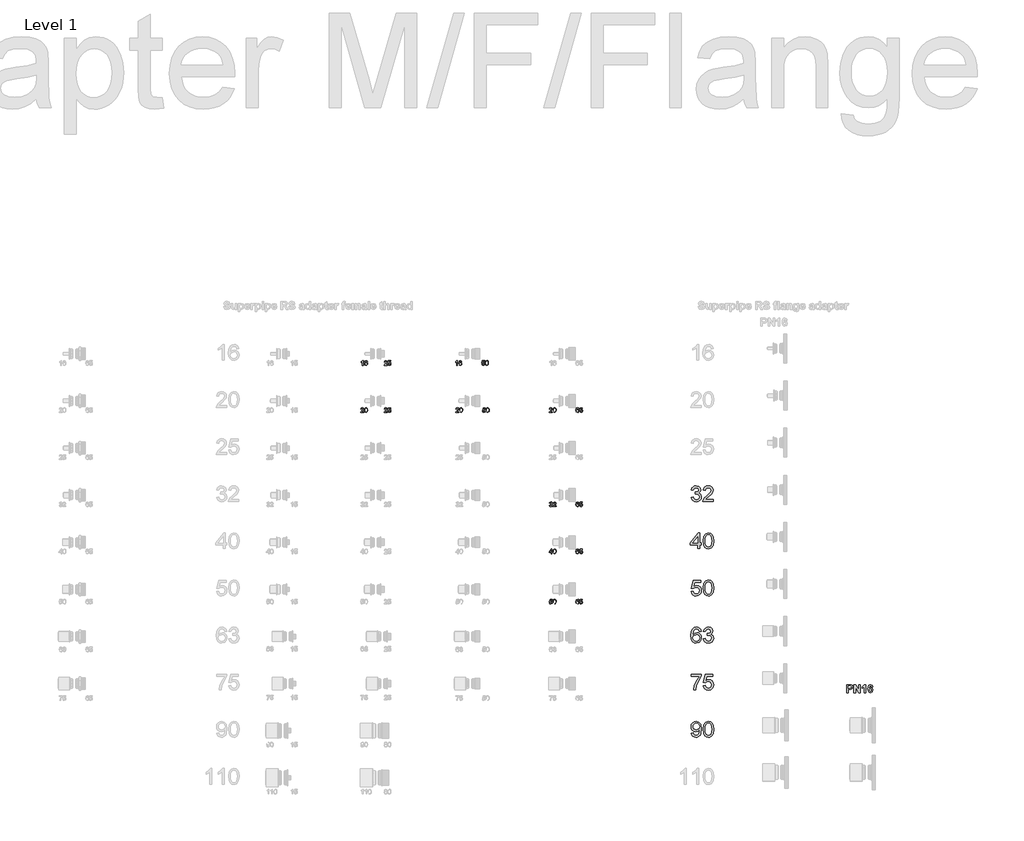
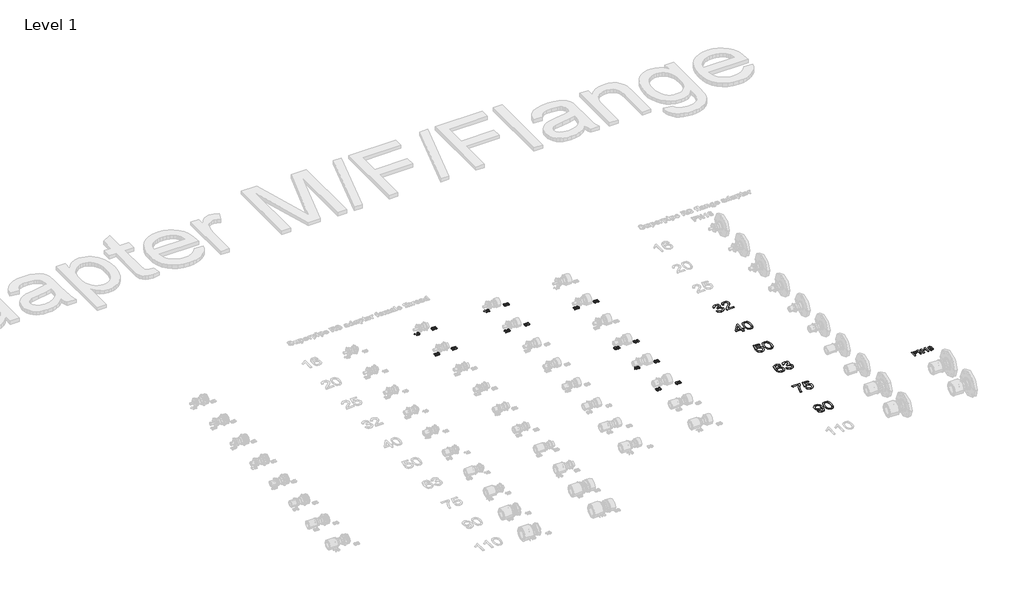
# One storey, part 48 of 58: 23 proxies.
"""IFC4 building model written with IfcOpenShell, lengths in millimetres."""

from ifc_helpers import new_model, si_unit, frame, origin, place, context, project, spatial, polyline, outline, extrude, element, save

model = new_model("IFC4")

# Units and contexts
model_context = context("Model", 3, world=origin())
ifc_project = project(units=[si_unit("LENGTHUNIT", "METRE", prefix="MILLI")], contexts=[model_context])

# Site, building, storey
site = spatial("IfcSite", under=ifc_project)
building = spatial("IfcBuilding", under=site)
storey = spatial("IfcBuildingStorey", under=building, Name="Level 1", Elevation=27.3876384)

# Proxies
placement = place(None, origin())
element("IfcBuildingElementProxy", 1, Name="100mm Arial", ObjectType="100mm Arial", at=placement, inside=storey, context=model_context, shape_type="SweptSolid", body=[
    extrude(outline(polyline([(34304.4814773, 17732.8797554), (34317.0385161, 17734.4493852), (34323.9669603, 17721.2301588), (34336.9286693, 17717.1834569), (34345.537108, 17718.5752771), (34352.1835093, 17722.7507378), (34357.8488921, 17736.5340498), (34352.2325603, 17749.5202843), (34337.9587389, 17754.6583695), (34329.1540964, 17753.2849434), (34330.552048, 17765.8419821), (34332.5631363, 17765.6948293), (34346.8124322, 17769.3000729), (34351.55811, 17773.8740723), (34353.1400025, 17780.3855837), (34348.5537403, 17790.2080329), (34336.7324655, 17794.0953193), (34324.764038, 17790.1712447), (34318.6081459, 17778.3990209), (34306.0511071, 17779.9686507), (34309.7483212, 17791.2442339), (34316.3272775, 17799.6626002), (34325.3281237, 17804.9049186), (34336.2910072, 17806.6523581), (34351.4354826, 17803.2065301), (34362.0304841, 17793.788751), (34365.6970413, 17781.1213477), (34362.2144251, 17769.5453275), (34351.9137292, 17761.2311944), (34365.5989394, 17752.6472812), (34370.4059308, 17736.3133206), (34368.0024351, 17724.0751129), (34360.791948, 17713.8479935), (34349.9087723, 17706.931812), (34336.4872109, 17704.6264181), (34324.347105, 17706.5945868), (34314.4633421, 17712.4990928), (34307.5900802, 17721.5305958), (34304.4814773, 17732.8797554)])), frame((0.0, 0.0, 27.3876384), z_axis=(0.0, 0.0, 1.0), x_axis=(1.0, 0.0, 0.0)), (0.0, 0.0, 1.0), 2.0),
    extrude(outline(polyline([(34445.7481635, 17718.7530867), (34445.7481635, 17706.196048), (34379.8237099, 17706.196048), (34381.1726106, 17714.8535376), (34388.8000306, 17728.1831285), (34404.5208545, 17742.7389928), (34426.2013668, 17763.6592156), (34431.6214948, 17777.8839861), (34426.5079351, 17789.3986925), (34413.1538187, 17794.0953193), (34399.2356165, 17789.5090571), (34393.9503785, 17776.829391), (34381.3933398, 17778.3990209), (34384.4375633, 17790.5452581), (34391.0195853, 17799.4173455), (34400.7960493, 17804.843605), (34413.4235988, 17806.6523581), (34426.1431188, 17804.6412699), (34435.9011887, 17798.6080052), (34442.1091974, 17789.5948963), (34444.1785336, 17778.6442756), (34441.9467162, 17766.7371616), (34434.5277626, 17754.4253775), (34416.538333, 17737.2207629), (34402.0928334, 17725.1419707), (34396.4274506, 17718.7530867), (34445.7481635, 17718.7530867)])), frame((0.0, 0.0, 27.3876384), z_axis=(0.0, 0.0, 1.0), x_axis=(1.0, 0.0, 0.0)), (0.0, 0.0, 1.0), 2.0),
])
element("IfcBuildingElementProxy", 2, Name="100mm Arial", ObjectType="100mm Arial", at=placement, inside=storey, context=model_context, shape_type="SweptSolid", body=[
    extrude(outline(polyline([(34345.2918533, 17406.196048), (34345.2918533, 17429.7404957), (34299.7725878, 17429.7404957), (34299.7725878, 17442.2975344), (34348.431113, 17505.0827283), (34357.8488921, 17505.0827283), (34357.8488921, 17442.2975344), (34370.4059308, 17442.2975344), (34370.4059308, 17429.7404957), (34357.8488921, 17429.7404957), (34357.8488921, 17406.196048), (34345.2918533, 17406.196048)]), holes=[polyline([(34345.2918533, 17442.2975344), (34345.2918533, 17481.0968222), (34315.2236316, 17442.2975344), (34345.2918533, 17442.2975344)])]), frame((0.0, 0.0, 27.3876384), z_axis=(0.0, 0.0, 1.0), x_axis=(1.0, 0.0, 0.0)), (0.0, 0.0, 1.0), 2.0),
    extrude(outline(polyline([(34381.3933398, 17455.6148627), (34385.0844224, 17484.5181247), (34396.0473059, 17501.1831791), (34414.3555665, 17506.6523581), (34429.0217954, 17503.4149966), (34439.150813, 17494.0830566), (34445.0369249, 17479.220624), (34447.3177933, 17455.6148627), (34443.6634988, 17426.8342279), (34432.7374036, 17410.1323853), (34424.5060439, 17406.0029099), (34414.3555665, 17404.6264181), (34401.3080184, 17407.0176511), (34391.39973, 17414.19135), (34383.8949373, 17431.1813668), (34381.3933398, 17455.6148627)]), holes=[polyline([(34393.9503785, 17455.6393881), (34395.4219065, 17435.8871907), (34399.8364905, 17424.4552577), (34406.4093154, 17419.0014071), (34414.3555665, 17417.1834569), (34422.3018176, 17419.0075385), (34428.8746426, 17424.4797831), (34433.2892265, 17435.9178475), (34434.7607545, 17455.6393881), (34433.3382775, 17474.9470615), (34429.0708463, 17486.4678993), (34422.5102841, 17492.1884643), (34414.2084137, 17494.0953193), (34406.3480018, 17492.4153249), (34400.0326942, 17487.3753416), (34395.4709574, 17475.1371339), (34393.9503785, 17455.6393881)])]), frame((0.0, 0.0, 27.3876384), z_axis=(0.0, 0.0, 1.0), x_axis=(1.0, 0.0, 0.0)), (0.0, 0.0, 1.0), 2.0),
])
element("IfcBuildingElementProxy", 3, Name="100mm Arial", ObjectType="100mm Arial", at=placement, inside=storey, context=model_context, shape_type="SweptSolid", body=[
    extrude(outline(polyline([(34304.4814773, 17132.8797554), (34317.0385161, 17134.4493852), (34323.3660864, 17121.5122017), (34336.4872109, 17117.1834569), (34345.488057, 17118.6887074), (34352.2325603, 17123.2044589), (34356.4448091, 17130.2095452), (34357.8488921, 17139.1828002), (34352.5881795, 17154.0942837), (34345.981632, 17158.196168), (34336.6834146, 17159.5634627), (34325.6592175, 17157.3806962), (34318.6081459, 17151.7153135), (34306.0511071, 17153.2849434), (34317.0385161, 17205.0827283), (34365.6970413, 17205.0827283), (34365.6970413, 17192.5256895), (34327.1920591, 17192.5256895), (34321.820982, 17164.8609635), (34330.7911713, 17170.305617), (34340.1905563, 17172.1205015), (34351.9229263, 17169.87029), (34361.6626021, 17163.1196554), (34368.2200987, 17152.8312222), (34370.4059308, 17139.9676151), (34368.4377622, 17127.4105764), (34362.5332561, 17116.6684221), (34351.2270162, 17107.6369191), (34336.43816, 17104.6264181), (34324.1049161, 17106.5608643), (34314.2794011, 17112.3642028), (34307.5440949, 17121.3619832), (34304.4814773, 17132.8797554)])), frame((0.0, 0.0, 27.3876384), z_axis=(0.0, 0.0, 1.0), x_axis=(1.0, 0.0, 0.0)), (0.0, 0.0, 1.0), 2.0),
    extrude(outline(polyline([(34381.3933398, 17155.6148627), (34385.0844224, 17184.5181247), (34396.0473059, 17201.1831791), (34414.3555665, 17206.6523581), (34429.0217954, 17203.4149966), (34439.150813, 17194.0830566), (34445.0369249, 17179.220624), (34447.3177933, 17155.6148627), (34443.6634988, 17126.8342279), (34432.7374036, 17110.1323853), (34424.5060439, 17106.0029099), (34414.3555665, 17104.6264181), (34401.3080184, 17107.0176511), (34391.39973, 17114.19135), (34383.8949373, 17131.1813668), (34381.3933398, 17155.6148627)]), holes=[polyline([(34393.9503785, 17155.6393881), (34395.4219065, 17135.8871907), (34399.8364905, 17124.4552577), (34406.4093154, 17119.0014071), (34414.3555665, 17117.1834569), (34422.3018176, 17119.0075385), (34428.8746426, 17124.4797831), (34433.2892265, 17135.9178475), (34434.7607545, 17155.6393881), (34433.3382775, 17174.9470615), (34429.0708463, 17186.4678993), (34422.5102841, 17192.1884643), (34414.2084137, 17194.0953193), (34406.3480018, 17192.4153249), (34400.0326942, 17187.3753416), (34395.4709574, 17175.1371339), (34393.9503785, 17155.6393881)])]), frame((0.0, 0.0, 27.3876384), z_axis=(0.0, 0.0, 1.0), x_axis=(1.0, 0.0, 0.0)), (0.0, 0.0, 1.0), 2.0),
])
element("IfcBuildingElementProxy", 4, Name="100mm Arial", ObjectType="100mm Arial", at=placement, inside=storey, context=model_context, shape_type="SweptSolid", body=[
    extrude(outline(polyline([(34368.836301, 16879.9686507), (34356.2792622, 16878.3990209), (34351.5213218, 16888.871395), (34338.9397575, 16894.0953193), (34327.6089921, 16891.0541615), (34319.0373416, 16879.6375569), (34315.4688862, 16857.2580689), (34326.5421343, 16867.2767219), (34340.2641327, 16870.5508717), (34351.8646783, 16868.3129229), (34361.6012884, 16861.5990764), (34368.2047702, 16851.3413001), (34370.4059308, 16838.4715617), (34366.261127, 16821.1443197), (34354.8567852, 16808.8815865), (34338.4001973, 16804.6264181), (34324.153967, 16807.4468468), (34312.8078731, 16815.9081326), (34305.3858539, 16830.8441416), (34302.9118475, 16853.0887396), (34305.6586997, 16878.0985839), (34313.8992564, 16895.1989653), (34325.1503141, 16903.7890099), (34339.7245724, 16906.6523581), (34350.7426382, 16904.8803932), (34359.5656747, 16899.5644983), (34365.7460922, 16891.1216066), (34368.836301, 16879.9686507)]), holes=[polyline([(34315.4688862, 16838.6677654), (34318.375154, 16827.7907211), (34326.1006759, 16819.8935209), (34337.4191786, 16817.1834569), (34345.7057205, 16818.5875398), (34352.2202975, 16822.7997887), (34356.4417434, 16829.4216646), (34357.8488921, 16838.0546288), (34356.4601375, 16846.3411707), (34352.2938739, 16852.659544), (34345.6689323, 16856.6602607), (34336.9041438, 16857.9938329), (34321.7106174, 16852.659544), (34317.029319, 16846.4944549), (34315.4688862, 16838.6677654)])]), frame((0.0, 0.0, 27.3876384), z_axis=(0.0, 0.0, 1.0), x_axis=(1.0, 0.0, 0.0)), (0.0, 0.0, 1.0), 2.0),
    extrude(outline(polyline([(34381.3933398, 16832.8797554), (34393.9503785, 16834.4493852), (34400.8788228, 16821.2301588), (34413.8405317, 16817.1834569), (34422.4489704, 16818.5752771), (34429.0953718, 16822.7507378), (34434.7607545, 16836.5340498), (34429.1444227, 16849.5202843), (34414.8706013, 16854.6583695), (34406.0659589, 16853.2849434), (34407.4639105, 16865.8419821), (34409.4749987, 16865.6948293), (34423.7242947, 16869.3000729), (34428.4699724, 16873.8740723), (34430.051865, 16880.3855837), (34425.4656028, 16890.2080329), (34413.644328, 16894.0953193), (34401.6759004, 16890.1712447), (34395.5200084, 16878.3990209), (34382.9629696, 16879.9686507), (34386.6601837, 16891.2442339), (34393.23914, 16899.6626002), (34402.2399862, 16904.9049186), (34413.2028696, 16906.6523581), (34428.3473451, 16903.2065301), (34438.9423465, 16893.788751), (34442.6089038, 16881.1213477), (34439.1262875, 16869.5453275), (34428.8255917, 16861.2311944), (34442.5108019, 16852.6472812), (34447.3177933, 16836.3133206), (34444.9142976, 16824.0751129), (34437.7038105, 16813.8479935), (34426.8206348, 16806.931812), (34413.3990733, 16804.6264181), (34401.2589675, 16806.5945868), (34391.3752046, 16812.4990928), (34384.5019426, 16821.5305958), (34381.3933398, 16832.8797554)])), frame((0.0, 0.0, 27.3876384), z_axis=(0.0, 0.0, 1.0), x_axis=(1.0, 0.0, 0.0)), (0.0, 0.0, 1.0), 2.0),
])
element("IfcBuildingElementProxy", 5, Name="100mm Arial", ObjectType="100mm Arial", at=placement, inside=storey, context=model_context, shape_type="SweptSolid", body=[
    extrude(outline(polyline([(34304.4814773, 16592.5256895), (34304.4814773, 16605.0827283), (34370.4059308, 16605.0827283), (34370.4059308, 16594.9291852), (34351.7052628, 16567.914384), (34337.3946531, 16533.492892), (34332.7348145, 16506.196048), (34320.1777758, 16506.196048), (34325.1687082, 16534.5229616), (34338.8661811, 16566.5409579), (34357.8488921, 16592.5256895), (34304.4814773, 16592.5256895)])), frame((0.0, 0.0, 27.3876384), z_axis=(0.0, 0.0, 1.0), x_axis=(1.0, 0.0, 0.0)), (0.0, 0.0, 1.0), 2.0),
    extrude(outline(polyline([(34381.3933398, 16532.8797554), (34393.9503785, 16534.4493852), (34400.2779488, 16521.5122017), (34413.3990733, 16517.1834569), (34422.3999195, 16518.6887074), (34429.1444227, 16523.2044589), (34433.3566716, 16530.2095452), (34434.7607545, 16539.1828002), (34429.500042, 16554.0942837), (34422.8934945, 16558.196168), (34413.5952771, 16559.5634627), (34402.57108, 16557.3806962), (34395.5200084, 16551.7153135), (34382.9629696, 16553.2849434), (34393.9503785, 16605.0827283), (34442.6089038, 16605.0827283), (34442.6089038, 16592.5256895), (34404.1039216, 16592.5256895), (34398.7328445, 16564.8609635), (34407.7030338, 16570.305617), (34417.1024188, 16572.1205015), (34428.8347887, 16569.87029), (34438.5744645, 16563.1196554), (34445.1319611, 16552.8312222), (34447.3177933, 16539.9676151), (34445.3496246, 16527.4105764), (34439.4451186, 16516.6684221), (34428.1388786, 16507.6369191), (34413.3500224, 16504.6264181), (34401.0167785, 16506.5608643), (34391.1912636, 16512.3642028), (34384.4559574, 16521.3619832), (34381.3933398, 16532.8797554)])), frame((0.0, 0.0, 27.3876384), z_axis=(0.0, 0.0, 1.0), x_axis=(1.0, 0.0, 0.0)), (0.0, 0.0, 1.0), 2.0),
])
element("IfcBuildingElementProxy", 6, Name="100mm Arial", ObjectType="100mm Arial", at=placement, inside=storey, context=model_context, shape_type="SweptSolid", body=[
    extrude(outline(polyline([(34306.0511071, 16231.3101255), (34318.6081459, 16232.8797554), (34324.2490032, 16220.899065), (34334.9421065, 16217.1834569), (34345.1079123, 16219.5746899), (34351.9995683, 16225.9635738), (34356.107584, 16236.8774064), (34357.9224685, 16251.4455334), (34357.8488921, 16253.89808), (34347.8057136, 16244.3821991), (34334.0346642, 16240.7279046), (34322.5843371, 16242.959722), (34313.0531278, 16249.6551743), (34306.6243899, 16259.9987898), (34304.4814773, 16273.1750966), (34306.7286232, 16286.7867304), (34313.4700607, 16297.4553082), (34323.5960126, 16304.3530956), (34335.9967016, 16306.6523581), (34353.8880293, 16301.4039083), (34366.1998134, 16286.4433738), (34370.4059308, 16258.3371894), (34366.2120761, 16227.839772), (34360.9973488, 16217.8487102), (34353.7408765, 16210.561581), (34344.7553587, 16206.1102088), (34334.3534953, 16204.6264181), (34323.6174724, 16206.3769233), (34315.0519533, 16211.6284388), (34309.0616081, 16220.0498708), (34306.0511071, 16231.3101255)]), holes=[polyline([(34357.8488921, 16273.4694022), (34356.4938601, 16281.979739), (34352.428764, 16288.5280385), (34346.1195878, 16292.7034991), (34338.0323153, 16294.0953193), (34329.6446058, 16292.5962002), (34322.924628, 16288.0988428), (34318.5100441, 16281.2163838), (34317.0385161, 16272.5619599), (34318.4303363, 16264.8027155), (34322.6057969, 16258.6437577), (34329.1602278, 16254.624647), (34337.6889587, 16253.2849434), (34352.1712466, 16258.6437577), (34356.4294807, 16265.029576), (34357.8488921, 16273.4694022)])]), frame((0.0, 0.0, 27.3876384), z_axis=(0.0, 0.0, 1.0), x_axis=(1.0, 0.0, 0.0)), (0.0, 0.0, 1.0), 2.0),
    extrude(outline(polyline([(34381.3933398, 16255.6148627), (34385.0844224, 16284.5181247), (34396.0473059, 16301.1831791), (34414.3555665, 16306.6523581), (34429.0217954, 16303.4149966), (34439.150813, 16294.0830566), (34445.0369249, 16279.220624), (34447.3177933, 16255.6148627), (34443.6634988, 16226.8342279), (34432.7374036, 16210.1323853), (34424.5060439, 16206.0029099), (34414.3555665, 16204.6264181), (34401.3080184, 16207.0176511), (34391.39973, 16214.19135), (34383.8949373, 16231.1813668), (34381.3933398, 16255.6148627)]), holes=[polyline([(34393.9503785, 16255.6393881), (34395.4219065, 16235.8871907), (34399.8364905, 16224.4552577), (34406.4093154, 16219.0014071), (34414.3555665, 16217.1834569), (34422.3018176, 16219.0075385), (34428.8746426, 16224.4797831), (34433.2892265, 16235.9178475), (34434.7607545, 16255.6393881), (34433.3382775, 16274.9470615), (34429.0708463, 16286.4678993), (34422.5102841, 16292.1884643), (34414.2084137, 16294.0953193), (34406.3480018, 16292.4153249), (34400.0326942, 16287.3753416), (34395.4709574, 16275.1371339), (34393.9503785, 16255.6393881)])]), frame((0.0, 0.0, 27.3876384), z_axis=(0.0, 0.0, 1.0), x_axis=(1.0, 0.0, 0.0)), (0.0, 0.0, 1.0), 2.0),
])
element("IfcBuildingElementProxy", 7, Name="30mm Arial", ObjectType="30mm Arial", at=placement, inside=storey, context=model_context, shape_type="SweptSolid", body=[
    extrude(outline(polyline([(32216.6620986, 18573.5788539), (32212.894987, 18573.5788539), (32212.894987, 18597.0644405), (32209.3265317, 18594.5223759), (32205.3607637, 18592.620426), (32205.3607637, 18596.1815237), (32210.8826725, 18599.7058332), (32214.2340775, 18603.715747), (32216.6620986, 18603.715747), (32216.6620986, 18573.5788539)])), frame((0.0, 0.0, 27.3876384), z_axis=(0.0, 0.0, 1.0), x_axis=(1.0, 0.0, 0.0)), (0.0, 0.0, 1.0), 2.0),
    extrude(outline(polyline([(32244.9154359, 18595.7106348), (32241.1483242, 18595.2397458), (32239.7209421, 18598.381458), (32235.9464728, 18599.9486353), (32232.5472432, 18599.036288), (32229.975748, 18595.6113066), (32228.9052114, 18588.8974602), (32232.2271859, 18591.9030561), (32236.3437854, 18592.885301), (32242.7449321, 18590.1997625), (32245.3863248, 18583.261508), (32244.1428837, 18578.0633355), (32240.7215811, 18574.3845155), (32235.7846047, 18573.107965), (32228.1069075, 18576.4924793), (32225.1380998, 18587.6466614), (32228.4343225, 18600.2797291), (32236.1819173, 18603.715747), (32242.134248, 18601.589389), (32244.9154359, 18595.7106348)]), holes=[polyline([(32228.9052114, 18583.3203692), (32229.7770918, 18580.0572559), (32232.0947483, 18577.6880958), (32235.4902992, 18576.8750766), (32239.9306348, 18578.5599761), (32241.6192132, 18583.1364282), (32239.9527078, 18587.5179027), (32235.3357887, 18589.1181894), (32230.7777308, 18587.5179027), (32228.9052114, 18583.3203692)])]), frame((0.0, 0.0, 27.3876384), z_axis=(0.0, 0.0, 1.0), x_axis=(1.0, 0.0, 0.0)), (0.0, 0.0, 1.0), 2.0),
])
element("IfcBuildingElementProxy", 8, Name="30mm Arial", ObjectType="30mm Arial", at=placement, inside=storey, context=model_context, shape_type="SweptSolid", body=[
    extrude(outline(polyline([(32370.5918771, 18577.3459656), (32370.5918771, 18573.5788539), (32350.8145411, 18573.5788539), (32351.2192113, 18576.1761008), (32353.5074373, 18580.1749781), (32358.2236845, 18584.5417374), (32364.7278381, 18590.8178042), (32366.3538765, 18595.0852354), (32364.8198086, 18598.5396473), (32360.8135737, 18599.9486353), (32356.6381131, 18598.5727567), (32355.0525417, 18594.7688569), (32351.28543, 18595.2397458), (32354.1733037, 18601.5452432), (32360.8945077, 18603.715747), (32367.6377847, 18601.3024411), (32370.1209882, 18595.3133222), (32369.4514429, 18591.741188), (32367.2257569, 18588.0476528), (32361.828928, 18582.8862684), (32357.4952781, 18579.2626308), (32355.7956633, 18577.3459656), (32370.5918771, 18577.3459656)])), frame((0.0, 0.0, 27.3876384), z_axis=(0.0, 0.0, 1.0), x_axis=(1.0, 0.0, 0.0)), (0.0, 0.0, 1.0), 2.0),
    extrude(outline(polyline([(32374.3589888, 18581.5839661), (32378.1261004, 18582.0548551), (32380.0243715, 18578.1737001), (32383.9607088, 18576.8750766), (32388.6843137, 18578.6813772), (32390.3692132, 18583.4748796), (32388.7909994, 18587.9483247), (32384.01957, 18589.5890784), (32380.7123108, 18588.9342484), (32378.5969893, 18587.2346336), (32374.8298777, 18587.7055225), (32378.1261004, 18603.244858), (32392.723658, 18603.244858), (32392.723658, 18599.4777464), (32381.1721633, 18599.4777464), (32379.5608402, 18591.1783286), (32385.0717125, 18593.35619), (32391.5133262, 18590.6559361), (32394.1363248, 18583.7103241), (32391.7745224, 18576.7205662), (32383.9459936, 18573.107965), (32377.2983659, 18575.4293004), (32374.3589888, 18581.5839661)])), frame((0.0, 0.0, 27.3876384), z_axis=(0.0, 0.0, 1.0), x_axis=(1.0, 0.0, 0.0)), (0.0, 0.0, 1.0), 2.0),
])
element("IfcBuildingElementProxy", 9, Name="30mm Arial", ObjectType="30mm Arial", at=placement, inside=storey, context=model_context, shape_type="SweptSolid", body=[
    extrude(outline(polyline([(32816.6620986, 18573.5788539), (32812.894987, 18573.5788539), (32812.894987, 18597.0644405), (32809.3265317, 18594.5223759), (32805.3607637, 18592.620426), (32805.3607637, 18596.1815237), (32810.8826725, 18599.7058332), (32814.2340775, 18603.715747), (32816.6620986, 18603.715747), (32816.6620986, 18573.5788539)])), frame((0.0, 0.0, 27.3876384), z_axis=(0.0, 0.0, 1.0), x_axis=(1.0, 0.0, 0.0)), (0.0, 0.0, 1.0), 2.0),
    extrude(outline(polyline([(32844.9154359, 18595.7106348), (32841.1483242, 18595.2397458), (32839.7209421, 18598.381458), (32835.9464728, 18599.9486353), (32832.5472432, 18599.036288), (32829.975748, 18595.6113066), (32828.9052114, 18588.8974602), (32832.2271859, 18591.9030561), (32836.3437854, 18592.885301), (32842.7449321, 18590.1997625), (32845.3863248, 18583.261508), (32844.1428837, 18578.0633355), (32840.7215811, 18574.3845155), (32835.7846047, 18573.107965), (32828.1069075, 18576.4924793), (32825.1380998, 18587.6466614), (32828.4343225, 18600.2797291), (32836.1819173, 18603.715747), (32842.134248, 18601.589389), (32844.9154359, 18595.7106348)]), holes=[polyline([(32828.9052114, 18583.3203692), (32829.7770918, 18580.0572559), (32832.0947483, 18577.6880958), (32835.4902992, 18576.8750766), (32839.9306348, 18578.5599761), (32841.6192132, 18583.1364282), (32839.9527078, 18587.5179027), (32835.3357887, 18589.1181894), (32830.7777308, 18587.5179027), (32828.9052114, 18583.3203692)])]), frame((0.0, 0.0, 27.3876384), z_axis=(0.0, 0.0, 1.0), x_axis=(1.0, 0.0, 0.0)), (0.0, 0.0, 1.0), 2.0),
])
element("IfcBuildingElementProxy", 10, Name="30mm Arial", ObjectType="30mm Arial", at=placement, inside=storey, context=model_context, shape_type="SweptSolid", body=[
    extrude(outline(polyline([(32971.28543, 18581.5839661), (32975.0525417, 18582.0548551), (32976.9508128, 18578.1737001), (32980.8871501, 18576.8750766), (32985.6107549, 18578.6813772), (32987.2956545, 18583.4748796), (32985.7174407, 18587.9483247), (32980.9460112, 18589.5890784), (32977.6387521, 18588.9342484), (32975.5234306, 18587.2346336), (32971.756319, 18587.7055225), (32975.0525417, 18603.244858), (32989.6500992, 18603.244858), (32989.6500992, 18599.4777464), (32978.0986046, 18599.4777464), (32976.4872814, 18591.1783286), (32981.9981537, 18593.35619), (32988.4397675, 18590.6559361), (32991.0627661, 18583.7103241), (32988.7009637, 18576.7205662), (32980.8724348, 18573.107965), (32974.2248072, 18575.4293004), (32971.28543, 18581.5839661)])), frame((0.0, 0.0, 27.3876384), z_axis=(0.0, 0.0, 1.0), x_axis=(1.0, 0.0, 0.0)), (0.0, 0.0, 1.0), 2.0),
    extrude(outline(polyline([(32994.3589888, 18588.4044983), (32995.4663136, 18597.075477), (32998.7551786, 18602.0749933), (33004.2476568, 18603.715747), (33008.6475255, 18602.7445385), (33011.6862307, 18599.9449565), (33013.4520643, 18595.4862267), (33014.1363248, 18588.4044983), (33013.0400365, 18579.7703079), (33009.7622079, 18574.7597551), (33004.2476568, 18573.107965), (32997.3609058, 18575.9774445), (32994.3589888, 18588.4044983)]), holes=[polyline([(32998.1261004, 18588.411856), (32999.891934, 18579.0566168), (33004.2476568, 18576.8750766), (33008.6033796, 18579.0639745), (33010.3692132, 18588.411856), (33008.6622407, 18597.6604093), (33004.203511, 18599.9486353), (32999.9507951, 18597.932642), (32998.1261004, 18588.411856)])]), frame((0.0, 0.0, 27.3876384), z_axis=(0.0, 0.0, 1.0), x_axis=(1.0, 0.0, 0.0)), (0.0, 0.0, 1.0), 2.0),
])
element("IfcBuildingElementProxy", 11, Name="30mm Arial", ObjectType="30mm Arial", at=placement, inside=storey, context=model_context, shape_type="SweptSolid", body=[
    extrude(outline(polyline([(32826.8418771, 18277.3459656), (32826.8418771, 18273.5788539), (32807.0645411, 18273.5788539), (32807.4692113, 18276.1761008), (32809.7574373, 18280.1749781), (32814.4736845, 18284.5417374), (32820.9778381, 18290.8178042), (32822.6038765, 18295.0852354), (32821.0698086, 18298.5396473), (32817.0635737, 18299.9486353), (32812.8881131, 18298.5727567), (32811.3025417, 18294.7688569), (32807.53543, 18295.2397458), (32810.4233037, 18301.5452432), (32817.1445077, 18303.715747), (32823.8877847, 18301.3024411), (32826.3709882, 18295.3133222), (32825.7014429, 18291.741188), (32823.4757569, 18288.0476528), (32818.078928, 18282.8862684), (32813.7452781, 18279.2626308), (32812.0456633, 18277.3459656), (32826.8418771, 18277.3459656)])), frame((0.0, 0.0, 27.3876384), z_axis=(0.0, 0.0, 1.0), x_axis=(1.0, 0.0, 0.0)), (0.0, 0.0, 1.0), 2.0),
    extrude(outline(polyline([(32830.6089888, 18288.4044983), (32831.7163136, 18297.075477), (32835.0051786, 18302.0749933), (32840.4976568, 18303.715747), (32844.8975255, 18302.7445385), (32847.9362307, 18299.9449565), (32849.7020643, 18295.4862267), (32850.3863248, 18288.4044983), (32849.2900365, 18279.7703079), (32846.0122079, 18274.7597551), (32840.4976568, 18273.107965), (32833.6109058, 18275.9774445), (32830.6089888, 18288.4044983)]), holes=[polyline([(32834.3761004, 18288.411856), (32836.141934, 18279.0566168), (32840.4976568, 18276.8750766), (32844.8533796, 18279.0639745), (32846.6192132, 18288.411856), (32844.9122407, 18297.6604093), (32840.453511, 18299.9486353), (32836.2007951, 18297.932642), (32834.3761004, 18288.411856)])]), frame((0.0, 0.0, 27.3876384), z_axis=(0.0, 0.0, 1.0), x_axis=(1.0, 0.0, 0.0)), (0.0, 0.0, 1.0), 2.0),
])
element("IfcBuildingElementProxy", 12, Name="30mm Arial", ObjectType="30mm Arial", at=placement, inside=storey, context=model_context, shape_type="SweptSolid", body=[
    extrude(outline(polyline([(32976.28543, 18281.5839661), (32980.0525417, 18282.0548551), (32981.9508128, 18278.1737001), (32985.8871501, 18276.8750766), (32990.6107549, 18278.6813772), (32992.2956545, 18283.4748796), (32990.7174407, 18287.9483247), (32985.9460112, 18289.5890784), (32982.6387521, 18288.9342484), (32980.5234306, 18287.2346336), (32976.756319, 18287.7055225), (32980.0525417, 18303.244858), (32994.6500992, 18303.244858), (32994.6500992, 18299.4777464), (32983.0986046, 18299.4777464), (32981.4872814, 18291.1783286), (32986.9981537, 18293.35619), (32993.4397675, 18290.6559361), (32996.0627661, 18283.7103241), (32993.7009637, 18276.7205662), (32985.8724348, 18273.107965), (32979.2248072, 18275.4293004), (32976.28543, 18281.5839661)])), frame((0.0, 0.0, 27.3876384), z_axis=(0.0, 0.0, 1.0), x_axis=(1.0, 0.0, 0.0)), (0.0, 0.0, 1.0), 2.0),
    extrude(outline(polyline([(32999.3589888, 18288.4044983), (33000.4663136, 18297.075477), (33003.7551786, 18302.0749933), (33009.2476568, 18303.715747), (33013.6475255, 18302.7445385), (33016.6862307, 18299.9449565), (33018.4520643, 18295.4862267), (33019.1363248, 18288.4044983), (33018.0400365, 18279.7703079), (33014.7622079, 18274.7597551), (33009.2476568, 18273.107965), (33002.3609058, 18275.9774445), (32999.3589888, 18288.4044983)]), holes=[polyline([(33003.1261004, 18288.411856), (33004.891934, 18279.0566168), (33009.2476568, 18276.8750766), (33013.6033796, 18279.0639745), (33015.3692132, 18288.411856), (33013.6622407, 18297.6604093), (33009.203511, 18299.9486353), (33004.9507951, 18297.932642), (33003.1261004, 18288.411856)])]), frame((0.0, 0.0, 27.3876384), z_axis=(0.0, 0.0, 1.0), x_axis=(1.0, 0.0, 0.0)), (0.0, 0.0, 1.0), 2.0),
])
element("IfcBuildingElementProxy", 13, Name="30mm Arial", ObjectType="30mm Arial", at=placement, inside=storey, context=model_context, shape_type="SweptSolid", body=[
    extrude(outline(polyline([(33421.8418771, 18277.3459656), (33421.8418771, 18273.5788539), (33402.0645411, 18273.5788539), (33402.4692113, 18276.1761008), (33404.7574373, 18280.1749781), (33409.4736845, 18284.5417374), (33415.9778381, 18290.8178042), (33417.6038765, 18295.0852354), (33416.0698086, 18298.5396473), (33412.0635737, 18299.9486353), (33407.8881131, 18298.5727567), (33406.3025417, 18294.7688569), (33402.53543, 18295.2397458), (33405.4233037, 18301.5452432), (33412.1445077, 18303.715747), (33418.8877847, 18301.3024411), (33421.3709882, 18295.3133222), (33420.7014429, 18291.741188), (33418.4757569, 18288.0476528), (33413.078928, 18282.8862684), (33408.7452781, 18279.2626308), (33407.0456633, 18277.3459656), (33421.8418771, 18277.3459656)])), frame((0.0, 0.0, 27.3876384), z_axis=(0.0, 0.0, 1.0), x_axis=(1.0, 0.0, 0.0)), (0.0, 0.0, 1.0), 2.0),
    extrude(outline(polyline([(33425.6089888, 18288.4044983), (33426.7163136, 18297.075477), (33430.0051786, 18302.0749933), (33435.4976568, 18303.715747), (33439.8975255, 18302.7445385), (33442.9362307, 18299.9449565), (33444.7020643, 18295.4862267), (33445.3863248, 18288.4044983), (33444.2900365, 18279.7703079), (33441.0122079, 18274.7597551), (33435.4976568, 18273.107965), (33428.6109058, 18275.9774445), (33425.6089888, 18288.4044983)]), holes=[polyline([(33429.3761004, 18288.411856), (33431.141934, 18279.0566168), (33435.4976568, 18276.8750766), (33439.8533796, 18279.0639745), (33441.6192132, 18288.411856), (33439.9122407, 18297.6604093), (33435.453511, 18299.9486353), (33431.2007951, 18297.932642), (33429.3761004, 18288.411856)])]), frame((0.0, 0.0, 27.3876384), z_axis=(0.0, 0.0, 1.0), x_axis=(1.0, 0.0, 0.0)), (0.0, 0.0, 1.0), 2.0),
])
element("IfcBuildingElementProxy", 14, Name="30mm Arial", ObjectType="30mm Arial", at=placement, inside=storey, context=model_context, shape_type="SweptSolid", body=[
    extrude(outline(polyline([(33590.5918771, 18295.7106348), (33586.8247655, 18295.2397458), (33585.3973834, 18298.381458), (33581.6229141, 18299.9486353), (33578.2236845, 18299.036288), (33575.6521893, 18295.6113066), (33574.5816527, 18288.8974602), (33577.9036271, 18291.9030561), (33582.0202266, 18292.885301), (33588.4213734, 18290.1997625), (33591.0627661, 18283.261508), (33589.8193249, 18278.0633355), (33586.3980224, 18274.3845155), (33581.461046, 18273.107965), (33573.7833488, 18276.4924793), (33570.8145411, 18287.6466614), (33574.1107637, 18300.2797291), (33581.8583586, 18303.715747), (33587.8106892, 18301.589389), (33590.5918771, 18295.7106348)]), holes=[polyline([(33574.5816527, 18283.3203692), (33575.453533, 18280.0572559), (33577.7711896, 18277.6880958), (33581.1667404, 18276.8750766), (33585.6070761, 18278.5599761), (33587.2956545, 18283.1364282), (33585.629149, 18287.5179027), (33581.01223, 18289.1181894), (33576.4541721, 18287.5179027), (33574.5816527, 18283.3203692)])]), frame((0.0, 0.0, 27.3876384), z_axis=(0.0, 0.0, 1.0), x_axis=(1.0, 0.0, 0.0)), (0.0, 0.0, 1.0), 2.0),
    extrude(outline(polyline([(33594.3589888, 18281.5839661), (33598.1261004, 18282.0548551), (33600.0243715, 18278.1737001), (33603.9607088, 18276.8750766), (33608.6843137, 18278.6813772), (33610.3692132, 18283.4748796), (33608.7909994, 18287.9483247), (33604.01957, 18289.5890784), (33600.7123108, 18288.9342484), (33598.5969893, 18287.2346336), (33594.8298777, 18287.7055225), (33598.1261004, 18303.244858), (33612.723658, 18303.244858), (33612.723658, 18299.4777464), (33601.1721633, 18299.4777464), (33599.5608402, 18291.1783286), (33605.0717125, 18293.35619), (33611.5133262, 18290.6559361), (33614.1363248, 18283.7103241), (33611.7745224, 18276.7205662), (33603.9459936, 18273.107965), (33597.2983659, 18275.4293004), (33594.3589888, 18281.5839661)])), frame((0.0, 0.0, 27.3876384), z_axis=(0.0, 0.0, 1.0), x_axis=(1.0, 0.0, 0.0)), (0.0, 0.0, 1.0), 2.0),
])
element("IfcBuildingElementProxy", 15, Name="30mm Arial", ObjectType="30mm Arial", at=placement, inside=storey, context=model_context, shape_type="SweptSolid", body=[
    extrude(outline(polyline([(33402.53543, 17681.5839661), (33406.3025417, 17682.0548551), (33408.3810749, 17678.0890872), (33412.2695876, 17676.8750766), (33416.8460396, 17678.5452609), (33418.5456545, 17682.6802545), (33416.8607549, 17686.5761248), (33412.5786085, 17688.1175504), (33409.9372158, 17687.7055225), (33410.3566012, 17691.4726342), (33415.2347165, 17692.5100614), (33417.1329876, 17695.8357146), (33415.7571089, 17698.7824494), (33412.2107265, 17699.9486353), (33408.6201982, 17698.771413), (33406.7734306, 17695.2397458), (33403.006319, 17695.7106348), (33406.0891701, 17701.6188196), (33412.078289, 17703.715747), (33416.6216316, 17702.6819986), (33419.8001321, 17699.8566648), (33420.9000992, 17696.0564438), (33419.8553144, 17692.5836378), (33416.7651056, 17690.0893979), (33420.8706687, 17687.5142239), (33422.3127661, 17682.6140357), (33419.4285712, 17675.8744376), (33412.1371501, 17673.107965), (33405.5299895, 17675.4697674), (33402.53543, 17681.5839661)])), frame((0.0, 0.0, 27.3876384), z_axis=(0.0, 0.0, 1.0), x_axis=(1.0, 0.0, 0.0)), (0.0, 0.0, 1.0), 2.0),
    extrude(outline(polyline([(33444.9154359, 17677.3459656), (33444.9154359, 17673.5788539), (33425.1380998, 17673.5788539), (33425.54277, 17676.1761008), (33427.830996, 17680.1749781), (33432.5472432, 17684.5417374), (33439.0513969, 17690.8178042), (33440.6774353, 17695.0852354), (33439.1433674, 17698.5396473), (33435.1371324, 17699.9486353), (33430.9616718, 17698.5727567), (33429.3761004, 17694.7688569), (33425.6089888, 17695.2397458), (33428.4968624, 17701.5452432), (33435.2180665, 17703.715747), (33441.9613434, 17701.3024411), (33444.4445469, 17695.3133222), (33443.7750017, 17691.741188), (33441.5493156, 17688.0476528), (33436.1524867, 17682.8862684), (33431.8188368, 17679.2626308), (33430.119222, 17677.3459656), (33444.9154359, 17677.3459656)])), frame((0.0, 0.0, 27.3876384), z_axis=(0.0, 0.0, 1.0), x_axis=(1.0, 0.0, 0.0)), (0.0, 0.0, 1.0), 2.0),
])
element("IfcBuildingElementProxy", 16, Name="30mm Arial", ObjectType="30mm Arial", at=placement, inside=storey, context=model_context, shape_type="SweptSolid", body=[
    extrude(outline(polyline([(33590.5918771, 17695.7106348), (33586.8247655, 17695.2397458), (33585.3973834, 17698.381458), (33581.6229141, 17699.9486353), (33578.2236845, 17699.036288), (33575.6521893, 17695.6113066), (33574.5816527, 17688.8974602), (33577.9036271, 17691.9030561), (33582.0202266, 17692.885301), (33588.4213734, 17690.1997625), (33591.0627661, 17683.261508), (33589.8193249, 17678.0633355), (33586.3980224, 17674.3845155), (33581.461046, 17673.107965), (33573.7833488, 17676.4924793), (33570.8145411, 17687.6466614), (33574.1107637, 17700.2797291), (33581.8583586, 17703.715747), (33587.8106892, 17701.589389), (33590.5918771, 17695.7106348)]), holes=[polyline([(33574.5816527, 17683.3203692), (33575.453533, 17680.0572559), (33577.7711896, 17677.6880958), (33581.1667404, 17676.8750766), (33585.6070761, 17678.5599761), (33587.2956545, 17683.1364282), (33585.629149, 17687.5179027), (33581.01223, 17689.1181894), (33576.4541721, 17687.5179027), (33574.5816527, 17683.3203692)])]), frame((0.0, 0.0, 27.3876384), z_axis=(0.0, 0.0, 1.0), x_axis=(1.0, 0.0, 0.0)), (0.0, 0.0, 1.0), 2.0),
    extrude(outline(polyline([(33594.3589888, 17681.5839661), (33598.1261004, 17682.0548551), (33600.0243715, 17678.1737001), (33603.9607088, 17676.8750766), (33608.6843137, 17678.6813772), (33610.3692132, 17683.4748796), (33608.7909994, 17687.9483247), (33604.01957, 17689.5890784), (33600.7123108, 17688.9342484), (33598.5969893, 17687.2346336), (33594.8298777, 17687.7055225), (33598.1261004, 17703.244858), (33612.723658, 17703.244858), (33612.723658, 17699.4777464), (33601.1721633, 17699.4777464), (33599.5608402, 17691.1783286), (33605.0717125, 17693.35619), (33611.5133262, 17690.6559361), (33614.1363248, 17683.7103241), (33611.7745224, 17676.7205662), (33603.9459936, 17673.107965), (33597.2983659, 17675.4293004), (33594.3589888, 17681.5839661)])), frame((0.0, 0.0, 27.3876384), z_axis=(0.0, 0.0, 1.0), x_axis=(1.0, 0.0, 0.0)), (0.0, 0.0, 1.0), 2.0),
])
element("IfcBuildingElementProxy", 17, Name="30mm Arial", ObjectType="30mm Arial", at=placement, inside=storey, context=model_context, shape_type="SweptSolid", body=[
    extrude(outline(polyline([(33414.7785428, 17373.5788539), (33414.7785428, 17380.6421882), (33401.1227632, 17380.6421882), (33401.1227632, 17384.4092999), (33415.7203207, 17403.244858), (33418.5456545, 17403.244858), (33418.5456545, 17384.4092999), (33422.3127661, 17384.4092999), (33422.3127661, 17380.6421882), (33418.5456545, 17380.6421882), (33418.5456545, 17373.5788539), (33414.7785428, 17373.5788539)]), holes=[polyline([(33414.7785428, 17384.4092999), (33414.7785428, 17396.0490862), (33405.7580763, 17384.4092999), (33414.7785428, 17384.4092999)])]), frame((0.0, 0.0, 27.3876384), z_axis=(0.0, 0.0, 1.0), x_axis=(1.0, 0.0, 0.0)), (0.0, 0.0, 1.0), 2.0),
    extrude(outline(polyline([(33425.6089888, 17388.4044983), (33426.7163136, 17397.075477), (33430.0051786, 17402.0749933), (33435.4976568, 17403.715747), (33439.8975255, 17402.7445385), (33442.9362307, 17399.9449565), (33444.7020643, 17395.4862267), (33445.3863248, 17388.4044983), (33444.2900365, 17379.7703079), (33441.0122079, 17374.7597551), (33435.4976568, 17373.107965), (33428.6109058, 17375.9774445), (33425.6089888, 17388.4044983)]), holes=[polyline([(33429.3761004, 17388.411856), (33431.141934, 17379.0566168), (33435.4976568, 17376.8750766), (33439.8533796, 17379.0639745), (33441.6192132, 17388.411856), (33439.9122407, 17397.6604093), (33435.453511, 17399.9486353), (33431.2007951, 17397.932642), (33429.3761004, 17388.411856)])]), frame((0.0, 0.0, 27.3876384), z_axis=(0.0, 0.0, 1.0), x_axis=(1.0, 0.0, 0.0)), (0.0, 0.0, 1.0), 2.0),
])
element("IfcBuildingElementProxy", 18, Name="30mm Arial", ObjectType="30mm Arial", at=placement, inside=storey, context=model_context, shape_type="SweptSolid", body=[
    extrude(outline(polyline([(33590.5918771, 17395.7106348), (33586.8247655, 17395.2397458), (33585.3973834, 17398.381458), (33581.6229141, 17399.9486353), (33578.2236845, 17399.036288), (33575.6521893, 17395.6113066), (33574.5816527, 17388.8974602), (33577.9036271, 17391.9030561), (33582.0202266, 17392.885301), (33588.4213734, 17390.1997625), (33591.0627661, 17383.261508), (33589.8193249, 17378.0633355), (33586.3980224, 17374.3845155), (33581.461046, 17373.107965), (33573.7833488, 17376.4924793), (33570.8145411, 17387.6466614), (33574.1107637, 17400.2797291), (33581.8583586, 17403.715747), (33587.8106892, 17401.589389), (33590.5918771, 17395.7106348)]), holes=[polyline([(33574.5816527, 17383.3203692), (33575.453533, 17380.0572559), (33577.7711896, 17377.6880958), (33581.1667404, 17376.8750766), (33585.6070761, 17378.5599761), (33587.2956545, 17383.1364282), (33585.629149, 17387.5179027), (33581.01223, 17389.1181894), (33576.4541721, 17387.5179027), (33574.5816527, 17383.3203692)])]), frame((0.0, 0.0, 27.3876384), z_axis=(0.0, 0.0, 1.0), x_axis=(1.0, 0.0, 0.0)), (0.0, 0.0, 1.0), 2.0),
    extrude(outline(polyline([(33594.3589888, 17381.5839661), (33598.1261004, 17382.0548551), (33600.0243715, 17378.1737001), (33603.9607088, 17376.8750766), (33608.6843137, 17378.6813772), (33610.3692132, 17383.4748796), (33608.7909994, 17387.9483247), (33604.01957, 17389.5890784), (33600.7123108, 17388.9342484), (33598.5969893, 17387.2346336), (33594.8298777, 17387.7055225), (33598.1261004, 17403.244858), (33612.723658, 17403.244858), (33612.723658, 17399.4777464), (33601.1721633, 17399.4777464), (33599.5608402, 17391.1783286), (33605.0717125, 17393.35619), (33611.5133262, 17390.6559361), (33614.1363248, 17383.7103241), (33611.7745224, 17376.7205662), (33603.9459936, 17373.107965), (33597.2983659, 17375.4293004), (33594.3589888, 17381.5839661)])), frame((0.0, 0.0, 27.3876384), z_axis=(0.0, 0.0, 1.0), x_axis=(1.0, 0.0, 0.0)), (0.0, 0.0, 1.0), 2.0),
])
element("IfcBuildingElementProxy", 19, Name="30mm Arial", ObjectType="30mm Arial", at=placement, inside=storey, context=model_context, shape_type="SweptSolid", body=[
    extrude(outline(polyline([(33402.53543, 17061.5839661), (33406.3025417, 17062.0548551), (33408.2008127, 17058.1737001), (33412.1371501, 17056.8750766), (33416.8607549, 17058.6813772), (33418.5456545, 17063.4748796), (33416.9674407, 17067.9483247), (33412.1960112, 17069.5890784), (33408.8887521, 17068.9342484), (33406.7734306, 17067.2346336), (33403.006319, 17067.7055225), (33406.3025417, 17083.244858), (33420.9000992, 17083.244858), (33420.9000992, 17079.4777464), (33409.3486046, 17079.4777464), (33407.7372814, 17071.1783286), (33413.2481537, 17073.35619), (33419.6897675, 17070.6559361), (33422.3127661, 17063.7103241), (33419.9509637, 17056.7205662), (33412.1224348, 17053.107965), (33405.4748072, 17055.4293004), (33402.53543, 17061.5839661)])), frame((0.0, 0.0, 27.3876384), z_axis=(0.0, 0.0, 1.0), x_axis=(1.0, 0.0, 0.0)), (0.0, 0.0, 1.0), 2.0),
    extrude(outline(polyline([(33425.6089888, 17068.4044983), (33426.7163136, 17077.075477), (33430.0051786, 17082.0749933), (33435.4976568, 17083.715747), (33439.8975255, 17082.7445385), (33442.9362307, 17079.9449565), (33444.7020643, 17075.4862267), (33445.3863248, 17068.4044983), (33444.2900365, 17059.7703079), (33441.0122079, 17054.7597551), (33435.4976568, 17053.107965), (33428.6109058, 17055.9774445), (33425.6089888, 17068.4044983)]), holes=[polyline([(33429.3761004, 17068.411856), (33431.141934, 17059.0566168), (33435.4976568, 17056.8750766), (33439.8533796, 17059.0639745), (33441.6192132, 17068.411856), (33439.9122407, 17077.6604093), (33435.453511, 17079.9486353), (33431.2007951, 17077.932642), (33429.3761004, 17068.411856)])]), frame((0.0, 0.0, 27.3876384), z_axis=(0.0, 0.0, 1.0), x_axis=(1.0, 0.0, 0.0)), (0.0, 0.0, 1.0), 2.0),
])
element("IfcBuildingElementProxy", 20, Name="30mm Arial", ObjectType="30mm Arial", at=placement, inside=storey, context=model_context, shape_type="SweptSolid", body=[
    extrude(outline(polyline([(33590.5918771, 17075.7106348), (33586.8247655, 17075.2397458), (33585.3973834, 17078.381458), (33581.6229141, 17079.9486353), (33578.2236845, 17079.036288), (33575.6521893, 17075.6113066), (33574.5816527, 17068.8974602), (33577.9036271, 17071.9030561), (33582.0202266, 17072.885301), (33588.4213734, 17070.1997625), (33591.0627661, 17063.261508), (33589.8193249, 17058.0633355), (33586.3980224, 17054.3845155), (33581.461046, 17053.107965), (33573.7833488, 17056.4924793), (33570.8145411, 17067.6466614), (33574.1107637, 17080.2797291), (33581.8583586, 17083.715747), (33587.8106892, 17081.589389), (33590.5918771, 17075.7106348)]), holes=[polyline([(33574.5816527, 17063.3203692), (33575.453533, 17060.0572559), (33577.7711896, 17057.6880958), (33581.1667404, 17056.8750766), (33585.6070761, 17058.5599761), (33587.2956545, 17063.1364282), (33585.629149, 17067.5179027), (33581.01223, 17069.1181894), (33576.4541721, 17067.5179027), (33574.5816527, 17063.3203692)])]), frame((0.0, 0.0, 27.3876384), z_axis=(0.0, 0.0, 1.0), x_axis=(1.0, 0.0, 0.0)), (0.0, 0.0, 1.0), 2.0),
    extrude(outline(polyline([(33594.3589888, 17061.5839661), (33598.1261004, 17062.0548551), (33600.0243715, 17058.1737001), (33603.9607088, 17056.8750766), (33608.6843137, 17058.6813772), (33610.3692132, 17063.4748796), (33608.7909994, 17067.9483247), (33604.01957, 17069.5890784), (33600.7123108, 17068.9342484), (33598.5969893, 17067.2346336), (33594.8298777, 17067.7055225), (33598.1261004, 17083.244858), (33612.723658, 17083.244858), (33612.723658, 17079.4777464), (33601.1721633, 17079.4777464), (33599.5608402, 17071.1783286), (33605.0717125, 17073.35619), (33611.5133262, 17070.6559361), (33614.1363248, 17063.7103241), (33611.7745224, 17056.7205662), (33603.9459936, 17053.107965), (33597.2983659, 17055.4293004), (33594.3589888, 17061.5839661)])), frame((0.0, 0.0, 27.3876384), z_axis=(0.0, 0.0, 1.0), x_axis=(1.0, 0.0, 0.0)), (0.0, 0.0, 1.0), 2.0),
])
element("IfcBuildingElementProxy", 21, Name="30mm Arial", ObjectType="30mm Arial", at=placement, inside=storey, context=model_context, shape_type="SweptSolid", body=[
    extrude(outline(polyline([(32221.8418771, 18277.3459656), (32221.8418771, 18273.5788539), (32202.0645411, 18273.5788539), (32202.4692113, 18276.1761008), (32204.7574373, 18280.1749781), (32209.4736845, 18284.5417374), (32215.9778381, 18290.8178042), (32217.6038765, 18295.0852354), (32216.0698086, 18298.5396473), (32212.0635737, 18299.9486353), (32207.8881131, 18298.5727567), (32206.3025417, 18294.7688569), (32202.53543, 18295.2397458), (32205.4233037, 18301.5452432), (32212.1445077, 18303.715747), (32218.8877847, 18301.3024411), (32221.3709882, 18295.3133222), (32220.7014429, 18291.741188), (32218.4757569, 18288.0476528), (32213.078928, 18282.8862684), (32208.7452781, 18279.2626308), (32207.0456633, 18277.3459656), (32221.8418771, 18277.3459656)])), frame((0.0, 0.0, 27.3876384), z_axis=(0.0, 0.0, 1.0), x_axis=(1.0, 0.0, 0.0)), (0.0, 0.0, 1.0), 2.0),
    extrude(outline(polyline([(32225.6089888, 18288.4044983), (32226.7163136, 18297.075477), (32230.0051786, 18302.0749933), (32235.4976568, 18303.715747), (32239.8975255, 18302.7445385), (32242.9362307, 18299.9449565), (32244.7020643, 18295.4862267), (32245.3863248, 18288.4044983), (32244.2900365, 18279.7703079), (32241.0122079, 18274.7597551), (32235.4976568, 18273.107965), (32228.6109058, 18275.9774445), (32225.6089888, 18288.4044983)]), holes=[polyline([(32229.3761004, 18288.411856), (32231.141934, 18279.0566168), (32235.4976568, 18276.8750766), (32239.8533796, 18279.0639745), (32241.6192132, 18288.411856), (32239.9122407, 18297.6604093), (32235.453511, 18299.9486353), (32231.2007951, 18297.932642), (32229.3761004, 18288.411856)])]), frame((0.0, 0.0, 27.3876384), z_axis=(0.0, 0.0, 1.0), x_axis=(1.0, 0.0, 0.0)), (0.0, 0.0, 1.0), 2.0),
])
element("IfcBuildingElementProxy", 22, Name="30mm Arial", ObjectType="30mm Arial", at=placement, inside=storey, context=model_context, shape_type="SweptSolid", body=[
    extrude(outline(polyline([(32370.5918771, 18277.3459656), (32370.5918771, 18273.5788539), (32350.8145411, 18273.5788539), (32351.2192113, 18276.1761008), (32353.5074373, 18280.1749781), (32358.2236845, 18284.5417374), (32364.7278381, 18290.8178042), (32366.3538765, 18295.0852354), (32364.8198086, 18298.5396473), (32360.8135737, 18299.9486353), (32356.6381131, 18298.5727567), (32355.0525417, 18294.7688569), (32351.28543, 18295.2397458), (32354.1733037, 18301.5452432), (32360.8945077, 18303.715747), (32367.6377847, 18301.3024411), (32370.1209882, 18295.3133222), (32369.4514429, 18291.741188), (32367.2257569, 18288.0476528), (32361.828928, 18282.8862684), (32357.4952781, 18279.2626308), (32355.7956633, 18277.3459656), (32370.5918771, 18277.3459656)])), frame((0.0, 0.0, 27.3876384), z_axis=(0.0, 0.0, 1.0), x_axis=(1.0, 0.0, 0.0)), (0.0, 0.0, 1.0), 2.0),
    extrude(outline(polyline([(32374.3589888, 18281.5839661), (32378.1261004, 18282.0548551), (32380.0243715, 18278.1737001), (32383.9607088, 18276.8750766), (32388.6843137, 18278.6813772), (32390.3692132, 18283.4748796), (32388.7909994, 18287.9483247), (32384.01957, 18289.5890784), (32380.7123108, 18288.9342484), (32378.5969893, 18287.2346336), (32374.8298777, 18287.7055225), (32378.1261004, 18303.244858), (32392.723658, 18303.244858), (32392.723658, 18299.4777464), (32381.1721633, 18299.4777464), (32379.5608402, 18291.1783286), (32385.0717125, 18293.35619), (32391.5133262, 18290.6559361), (32394.1363248, 18283.7103241), (32391.7745224, 18276.7205662), (32383.9459936, 18273.107965), (32377.2983659, 18275.4293004), (32374.3589888, 18281.5839661)])), frame((0.0, 0.0, 27.3876384), z_axis=(0.0, 0.0, 1.0), x_axis=(1.0, 0.0, 0.0)), (0.0, 0.0, 1.0), 2.0),
])
element("IfcBuildingElementProxy", 23, Name="50mm Arial", ObjectType="50mm Arial", at=placement, inside=storey, context=model_context, shape_type="SweptSolid", body=[
    extrude(outline(polyline([(35293.9901491, 16489.3171711), (35293.9901491, 16540.3301411), (35310.4251313, 16540.3301411), (35322.6090326, 16539.5710195), (35329.9155778, 16534.6050992), (35332.8571739, 16524.7301927), (35331.1301723, 16516.8796104), (35326.7399192, 16511.88206), (35321.3311779, 16509.471849), (35310.5136955, 16508.7506835), (35303.7069053, 16508.7506835), (35303.7069053, 16489.3171711), (35293.9901491, 16489.3171711)]), holes=[polyline([(35303.7069053, 16531.4231146), (35303.7069053, 16517.65771), (35309.7419219, 16517.65771), (35318.452842, 16518.4168316), (35321.8941931, 16520.8017385), (35323.1404177, 16524.5783684), (35321.3881121, 16528.9433175), (35316.9662289, 16531.0941619), (35309.0334084, 16531.4231146), (35303.7069053, 16531.4231146)])]), frame((0.0, 0.0, 27.3876384), z_axis=(0.0, 0.0, 1.0), x_axis=(1.0, 0.0, 0.0)), (0.0, 0.0, 1.0), 2.0),
    extrude(outline(polyline([(35340.9544707, 16489.3171711), (35340.9544707, 16540.3301411), (35351.1393519, 16540.3301411), (35372.5339283, 16505.9925418), (35372.5339283, 16540.3301411), (35382.2506845, 16540.3301411), (35382.2506845, 16489.3171711), (35371.7495027, 16489.3171711), (35350.6712269, 16523.1486894), (35350.6712269, 16489.3171711), (35340.9544707, 16489.3171711)])), frame((0.0, 0.0, 27.3876384), z_axis=(0.0, 0.0, 1.0), x_axis=(1.0, 0.0, 0.0)), (0.0, 0.0, 1.0), 2.0),
    extrude(outline(polyline([(35414.6398718, 16489.3171711), (35404.9231156, 16489.3171711), (35404.9231156, 16525.7803109), (35392.7771704, 16517.65771), (35392.7771704, 16527.3744662), (35400.8871193, 16532.1379541), (35406.8968317, 16540.3301411), (35414.6398718, 16540.3301411), (35414.6398718, 16489.3171711)])), frame((0.0, 0.0, 27.3876384), z_axis=(0.0, 0.0, 1.0), x_axis=(1.0, 0.0, 0.0)), (0.0, 0.0, 1.0), 2.0),
    extrude(outline(polyline([(35460.7944637, 16526.792473), (35451.0777075, 16525.7550068), (35449.357032, 16530.0377177), (35445.7385524, 16531.4231146), (35440.7536541, 16528.734559), (35438.1852928, 16517.4426256), (35447.0670152, 16521.7063584), (35457.3341345, 16517.151629), (35461.6041934, 16505.3978965), (35457.2392443, 16493.131757), (35446.016897, 16488.5074414), (35439.3303011, 16490.0003805), (35433.9468639, 16494.4791978), (35430.3979706, 16502.3582472), (35429.2150061, 16514.0518825), (35430.4501602, 16526.0586555), (35434.1556224, 16534.1686043), (35439.8348007, 16538.7897569), (35446.9911031, 16540.3301411), (35456.1638221, 16536.8634859), (35460.7944637, 16526.792473)]), holes=[polyline([(35438.9317623, 16505.612981), (35441.0319987, 16499.5463344), (35445.8271166, 16497.4144679), (35450.1541096, 16499.1604476), (35451.8874372, 16504.8918155), (35450.0212633, 16510.895202), (35445.3589917, 16512.7993319), (35440.7979362, 16510.9774401), (35438.9317623, 16505.612981)])]), frame((0.0, 0.0, 27.3876384), z_axis=(0.0, 0.0, 1.0), x_axis=(1.0, 0.0, 0.0)), (0.0, 0.0, 1.0), 2.0),
])

save(model, "model.ifc")
